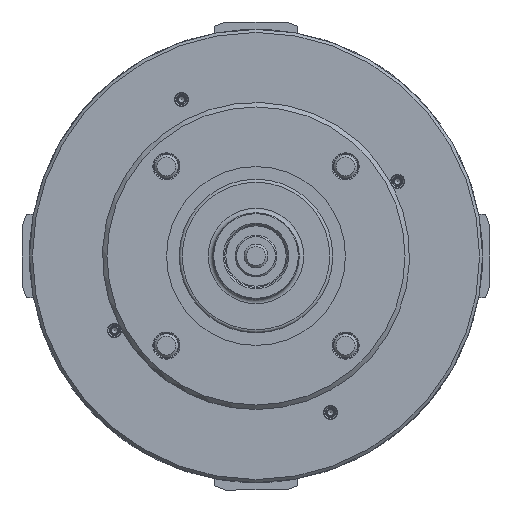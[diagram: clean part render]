
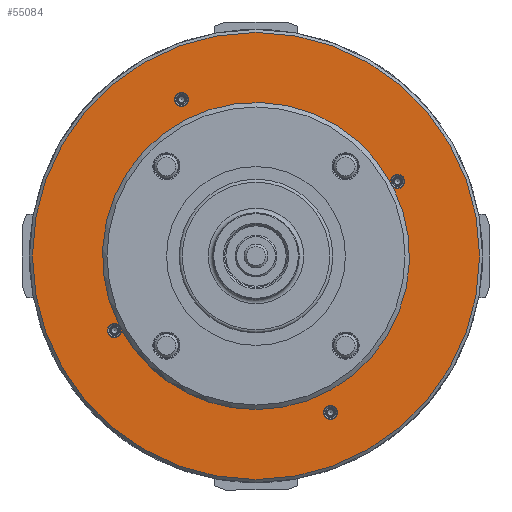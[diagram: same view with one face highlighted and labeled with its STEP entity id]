
A CAD part, left-side view. The second image highlights one B-rep face of the part: STEP entity #55084.
In plain terms, the highlighted planar face has unit normal (-1, 0, 0).
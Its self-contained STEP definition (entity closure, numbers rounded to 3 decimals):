
#1573 = PLANE ( 'NONE',  #62655 ) ;
#4352 = CARTESIAN_POINT ( 'NONE',  ( -107., 50., 100.25 ) ) ;
#5644 = DIRECTION ( 'NONE',  ( 0., 0., -1. ) ) ;
#6006 = CARTESIAN_POINT ( 'NONE',  ( -107., -50., -109.75 ) ) ;
#6982 = CIRCLE ( 'NONE', #102422, 103. ) ;
#8835 = VERTEX_POINT ( 'NONE', #45022 ) ;
#13575 = AXIS2_PLACEMENT_3D ( 'NONE', #61920, #37097, #96349 ) ;
#15811 = CIRCLE ( 'NONE', #95159, 4.75 ) ;
#17376 = DIRECTION ( 'NONE',  ( 1., 0., 0. ) ) ;
#18636 = ORIENTED_EDGE ( 'NONE', *, *, #81955, .T. ) ;
#18820 = CIRCLE ( 'NONE', #20590, 150. ) ;
#20333 = CARTESIAN_POINT ( 'NONE',  ( -107., 0., 0. ) ) ;
#20590 = AXIS2_PLACEMENT_3D ( 'NONE', #38151, #72569, #106992 ) ;
#21480 = DIRECTION ( 'NONE',  ( 1., 0., 0. ) ) ;
#23949 = EDGE_CURVE ( 'NONE', #107033, #107033, #47370, .T. ) ;
#24425 = EDGE_CURVE ( 'NONE', #40394, #40394, #56827, .T. ) ;
#24914 = CARTESIAN_POINT ( 'NONE',  ( -107., -50., -105. ) ) ;
#25599 = VERTEX_POINT ( 'NONE', #109667 ) ;
#29197 = EDGE_LOOP ( 'NONE', ( #104269 ) ) ;
#30483 = CIRCLE ( 'NONE', #93529, 4.75 ) ;
#31099 = CARTESIAN_POINT ( 'NONE',  ( -107., -95., 50. ) ) ;
#32119 = FACE_OUTER_BOUND ( 'NONE', #88530, .T. ) ;
#35496 = DIRECTION ( 'NONE',  ( 1., 0., 0. ) ) ;
#35920 = CIRCLE ( 'NONE', #50325, 103. ) ;
#37097 = DIRECTION ( 'NONE',  ( 1., 0., 0. ) ) ;
#38083 = EDGE_CURVE ( 'NONE', #96173, #49281, #15811, .T. ) ;
#38151 = CARTESIAN_POINT ( 'NONE',  ( -107., 0., 0. ) ) ;
#40394 = VERTEX_POINT ( 'NONE', #4352 ) ;
#43746 = EDGE_LOOP ( 'NONE', ( #47282, #18636, #97319, #61902 ) ) ;
#45022 = CARTESIAN_POINT ( 'NONE',  ( -107., 90.266, -49.609 ) ) ;
#47282 = ORIENTED_EDGE ( 'NONE', *, *, #100357, .T. ) ;
#47370 = CIRCLE ( 'NONE', #110467, 4.75 ) ;
#49281 = VERTEX_POINT ( 'NONE', #99928 ) ;
#50325 = AXIS2_PLACEMENT_3D ( 'NONE', #20333, #89185, #5644 ) ;
#50359 = VERTEX_POINT ( 'NONE', #76577 ) ;
#51760 = FACE_BOUND ( 'NONE', #43746, .T. ) ;
#55084 = ADVANCED_FACE ( 'NONE', ( #57483, #83469, #32119, #51760 ), #1573, .F. ) ;
#56827 = CIRCLE ( 'NONE', #13575, 4.75 ) ;
#57483 = FACE_BOUND ( 'NONE', #29197, .T. ) ;
#59263 = DIRECTION ( 'NONE',  ( 0., 0., -1. ) ) ;
#59685 = CARTESIAN_POINT ( 'NONE',  ( -107., -103., 0. ) ) ;
#61902 = ORIENTED_EDGE ( 'NONE', *, *, #38083, .T. ) ;
#61920 = CARTESIAN_POINT ( 'NONE',  ( -107., 50., 105. ) ) ;
#62655 = AXIS2_PLACEMENT_3D ( 'NONE', #59685, #17376, #68729 ) ;
#63655 = DIRECTION ( 'NONE',  ( 0., 0., -1. ) ) ;
#65900 = CARTESIAN_POINT ( 'NONE',  ( -107., 0., 0. ) ) ;
#68729 = DIRECTION ( 'NONE',  ( 0., 0., -1. ) ) ;
#70001 = ORIENTED_EDGE ( 'NONE', *, *, #74812, .F. ) ;
#71577 = DIRECTION ( 'NONE',  ( 0., 0., -1. ) ) ;
#72569 = DIRECTION ( 'NONE',  ( 1., 0., 0. ) ) ;
#72721 = DIRECTION ( 'NONE',  ( 1., 0., 0. ) ) ;
#74514 = DIRECTION ( 'NONE',  ( 0., 0., -1. ) ) ;
#74812 = EDGE_CURVE ( 'NONE', #25599, #25599, #18820, .T. ) ;
#76577 = CARTESIAN_POINT ( 'NONE',  ( -107., 91.997, -46.319 ) ) ;
#77899 = DIRECTION ( 'NONE',  ( 1., 0., 0. ) ) ;
#81955 = EDGE_CURVE ( 'NONE', #8835, #50359, #30483, .T. ) ;
#83469 = FACE_BOUND ( 'NONE', #111516, .T. ) ;
#86061 = CARTESIAN_POINT ( 'NONE',  ( -107., -90.266, 49.609 ) ) ;
#88530 = EDGE_LOOP ( 'NONE', ( #70001 ) ) ;
#89185 = DIRECTION ( 'NONE',  ( 1., 0., 0. ) ) ;
#91788 = EDGE_CURVE ( 'NONE', #50359, #96173, #35920, .T. ) ;
#93529 = AXIS2_PLACEMENT_3D ( 'NONE', #104914, #35496, #71577 ) ;
#95159 = AXIS2_PLACEMENT_3D ( 'NONE', #31099, #21480, #74514 ) ;
#96173 = VERTEX_POINT ( 'NONE', #86061 ) ;
#96349 = DIRECTION ( 'NONE',  ( 0., 0., -1. ) ) ;
#97319 = ORIENTED_EDGE ( 'NONE', *, *, #91788, .T. ) ;
#99928 = CARTESIAN_POINT ( 'NONE',  ( -107., -91.997, 46.319 ) ) ;
#100357 = EDGE_CURVE ( 'NONE', #49281, #8835, #6982, .T. ) ;
#102422 = AXIS2_PLACEMENT_3D ( 'NONE', #65900, #72721, #63655 ) ;
#104269 = ORIENTED_EDGE ( 'NONE', *, *, #23949, .T. ) ;
#104914 = CARTESIAN_POINT ( 'NONE',  ( -107., 95., -50. ) ) ;
#106992 = DIRECTION ( 'NONE',  ( 0., 0., -1. ) ) ;
#107033 = VERTEX_POINT ( 'NONE', #6006 ) ;
#107472 = ORIENTED_EDGE ( 'NONE', *, *, #24425, .T. ) ;
#109667 = CARTESIAN_POINT ( 'NONE',  ( -107., 0., -150. ) ) ;
#110467 = AXIS2_PLACEMENT_3D ( 'NONE', #24914, #77899, #59263 ) ;
#111516 = EDGE_LOOP ( 'NONE', ( #107472 ) ) ;
